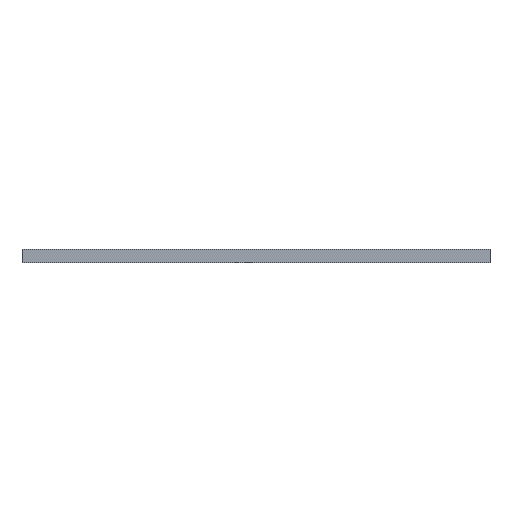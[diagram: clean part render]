
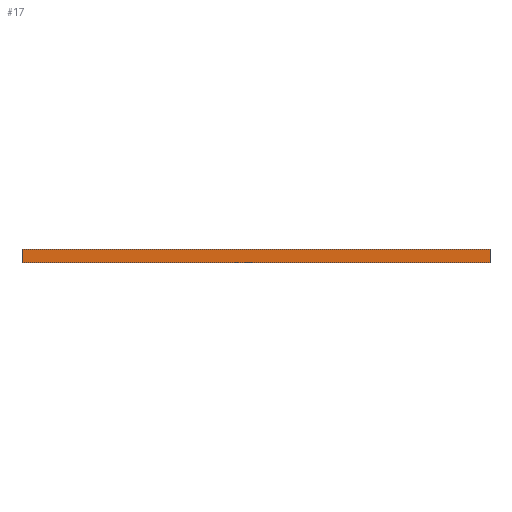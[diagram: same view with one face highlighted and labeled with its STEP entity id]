
A CAD part, left-side view. The second image highlights one B-rep face of the part: STEP entity #17.
In plain terms, the highlighted planar face has unit normal (-1, 0, 0).
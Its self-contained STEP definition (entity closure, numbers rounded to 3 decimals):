
#17 = ADVANCED_FACE('',(#18),#32,.F.);
#18 = FACE_BOUND('',#19,.F.);
#19 = EDGE_LOOP('',(#20,#55,#83,#111));
#20 = ORIENTED_EDGE('',*,*,#21,.F.);
#21 = EDGE_CURVE('',#22,#24,#26,.T.);
#22 = VERTEX_POINT('',#23);
#23 = CARTESIAN_POINT('',(-33.,-36.,33.));
#24 = VERTEX_POINT('',#25);
#25 = CARTESIAN_POINT('',(-33.,-36.,35.));
#26 = SURFACE_CURVE('',#27,(#31,#43),.PCURVE_S1.);
#27 = LINE('',#28,#29);
#28 = CARTESIAN_POINT('',(-33.,-36.,33.));
#29 = VECTOR('',#30,1.);
#30 = DIRECTION('',(0.,0.,1.));
#31 = PCURVE('',#32,#37);
#32 = PLANE('',#33);
#33 = AXIS2_PLACEMENT_3D('',#34,#35,#36);
#34 = CARTESIAN_POINT('',(-33.,-36.,33.));
#35 = DIRECTION('',(1.,0.,-0.));
#36 = DIRECTION('',(0.,0.,1.));
#37 = DEFINITIONAL_REPRESENTATION('',(#38),#42);
#38 = LINE('',#39,#40);
#39 = CARTESIAN_POINT('',(0.,0.));
#40 = VECTOR('',#41,1.);
#41 = DIRECTION('',(1.,0.));
#42 = ( GEOMETRIC_REPRESENTATION_CONTEXT(2) 
PARAMETRIC_REPRESENTATION_CONTEXT() REPRESENTATION_CONTEXT('2D SPACE',''
  ) );
#43 = PCURVE('',#44,#49);
#44 = PLANE('',#45);
#45 = AXIS2_PLACEMENT_3D('',#46,#47,#48);
#46 = CARTESIAN_POINT('',(-33.,-36.,33.));
#47 = DIRECTION('',(-0.,1.,0.));
#48 = DIRECTION('',(0.,0.,1.));
#49 = DEFINITIONAL_REPRESENTATION('',(#50),#54);
#50 = LINE('',#51,#52);
#51 = CARTESIAN_POINT('',(0.,0.));
#52 = VECTOR('',#53,1.);
#53 = DIRECTION('',(1.,0.));
#54 = ( GEOMETRIC_REPRESENTATION_CONTEXT(2) 
PARAMETRIC_REPRESENTATION_CONTEXT() REPRESENTATION_CONTEXT('2D SPACE',''
  ) );
#55 = ORIENTED_EDGE('',*,*,#56,.T.);
#56 = EDGE_CURVE('',#22,#57,#59,.T.);
#57 = VERTEX_POINT('',#58);
#58 = CARTESIAN_POINT('',(-33.,36.,33.));
#59 = SURFACE_CURVE('',#60,(#64,#71),.PCURVE_S1.);
#60 = LINE('',#61,#62);
#61 = CARTESIAN_POINT('',(-33.,-36.,33.));
#62 = VECTOR('',#63,1.);
#63 = DIRECTION('',(-0.,1.,0.));
#64 = PCURVE('',#32,#65);
#65 = DEFINITIONAL_REPRESENTATION('',(#66),#70);
#66 = LINE('',#67,#68);
#67 = CARTESIAN_POINT('',(0.,0.));
#68 = VECTOR('',#69,1.);
#69 = DIRECTION('',(0.,-1.));
#70 = ( GEOMETRIC_REPRESENTATION_CONTEXT(2) 
PARAMETRIC_REPRESENTATION_CONTEXT() REPRESENTATION_CONTEXT('2D SPACE',''
  ) );
#71 = PCURVE('',#72,#77);
#72 = PLANE('',#73);
#73 = AXIS2_PLACEMENT_3D('',#74,#75,#76);
#74 = CARTESIAN_POINT('',(-33.,-36.,33.));
#75 = DIRECTION('',(0.,0.,1.));
#76 = DIRECTION('',(1.,0.,-0.));
#77 = DEFINITIONAL_REPRESENTATION('',(#78),#82);
#78 = LINE('',#79,#80);
#79 = CARTESIAN_POINT('',(0.,0.));
#80 = VECTOR('',#81,1.);
#81 = DIRECTION('',(0.,1.));
#82 = ( GEOMETRIC_REPRESENTATION_CONTEXT(2) 
PARAMETRIC_REPRESENTATION_CONTEXT() REPRESENTATION_CONTEXT('2D SPACE',''
  ) );
#83 = ORIENTED_EDGE('',*,*,#84,.T.);
#84 = EDGE_CURVE('',#57,#85,#87,.T.);
#85 = VERTEX_POINT('',#86);
#86 = CARTESIAN_POINT('',(-33.,36.,35.));
#87 = SURFACE_CURVE('',#88,(#92,#99),.PCURVE_S1.);
#88 = LINE('',#89,#90);
#89 = CARTESIAN_POINT('',(-33.,36.,33.));
#90 = VECTOR('',#91,1.);
#91 = DIRECTION('',(0.,0.,1.));
#92 = PCURVE('',#32,#93);
#93 = DEFINITIONAL_REPRESENTATION('',(#94),#98);
#94 = LINE('',#95,#96);
#95 = CARTESIAN_POINT('',(0.,-72.));
#96 = VECTOR('',#97,1.);
#97 = DIRECTION('',(1.,0.));
#98 = ( GEOMETRIC_REPRESENTATION_CONTEXT(2) 
PARAMETRIC_REPRESENTATION_CONTEXT() REPRESENTATION_CONTEXT('2D SPACE',''
  ) );
#99 = PCURVE('',#100,#105);
#100 = PLANE('',#101);
#101 = AXIS2_PLACEMENT_3D('',#102,#103,#104);
#102 = CARTESIAN_POINT('',(-33.,36.,33.));
#103 = DIRECTION('',(-0.,1.,0.));
#104 = DIRECTION('',(0.,0.,1.));
#105 = DEFINITIONAL_REPRESENTATION('',(#106),#110);
#106 = LINE('',#107,#108);
#107 = CARTESIAN_POINT('',(0.,0.));
#108 = VECTOR('',#109,1.);
#109 = DIRECTION('',(1.,0.));
#110 = ( GEOMETRIC_REPRESENTATION_CONTEXT(2) 
PARAMETRIC_REPRESENTATION_CONTEXT() REPRESENTATION_CONTEXT('2D SPACE',''
  ) );
#111 = ORIENTED_EDGE('',*,*,#112,.F.);
#112 = EDGE_CURVE('',#24,#85,#113,.T.);
#113 = SURFACE_CURVE('',#114,(#118,#125),.PCURVE_S1.);
#114 = LINE('',#115,#116);
#115 = CARTESIAN_POINT('',(-33.,-36.,35.));
#116 = VECTOR('',#117,1.);
#117 = DIRECTION('',(-0.,1.,0.));
#118 = PCURVE('',#32,#119);
#119 = DEFINITIONAL_REPRESENTATION('',(#120),#124);
#120 = LINE('',#121,#122);
#121 = CARTESIAN_POINT('',(2.,0.));
#122 = VECTOR('',#123,1.);
#123 = DIRECTION('',(0.,-1.));
#124 = ( GEOMETRIC_REPRESENTATION_CONTEXT(2) 
PARAMETRIC_REPRESENTATION_CONTEXT() REPRESENTATION_CONTEXT('2D SPACE',''
  ) );
#125 = PCURVE('',#126,#131);
#126 = PLANE('',#127);
#127 = AXIS2_PLACEMENT_3D('',#128,#129,#130);
#128 = CARTESIAN_POINT('',(-33.,-36.,35.));
#129 = DIRECTION('',(0.,0.,1.));
#130 = DIRECTION('',(1.,0.,-0.));
#131 = DEFINITIONAL_REPRESENTATION('',(#132),#136);
#132 = LINE('',#133,#134);
#133 = CARTESIAN_POINT('',(0.,0.));
#134 = VECTOR('',#135,1.);
#135 = DIRECTION('',(0.,1.));
#136 = ( GEOMETRIC_REPRESENTATION_CONTEXT(2) 
PARAMETRIC_REPRESENTATION_CONTEXT() REPRESENTATION_CONTEXT('2D SPACE',''
  ) );
